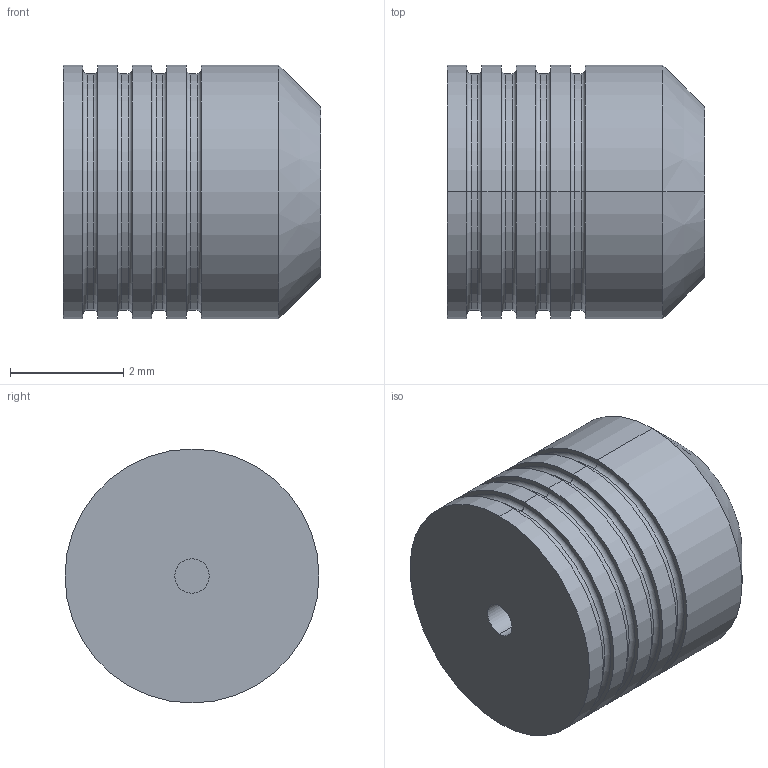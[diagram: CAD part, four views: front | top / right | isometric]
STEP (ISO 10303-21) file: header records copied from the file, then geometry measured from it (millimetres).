
FILE_DESCRIPTION (( 'STEP AP214' ), '1' );
FILE_NAME ('PLGM0450 _ _ 0A.STEP', '2020-02-19T17:54:47', ( 'tlc' ), ( 'Microsoft' ), 'SwSTEP 2.0', 'SolidWorks 2019', '' );
FILE_SCHEMA (( 'AUTOMOTIVE_DESIGN' ));
Length unit declared in the file: inch
Products named in the file (1): PLGM0450 _ _ 0A
Bounding box: 4.55 x 4.49 x 4.49 mm (x, y, z)
Volume: 65.5 mm3; surface area: 107.5 mm2
Topology: 1 solids, 1 shells, 49 faces, 96 edges, 58 vertices
Faces by surface type: cylinder 20, torus 16, plane 11, cone 2
Entity records: 1320 total; most frequent: DIRECTION 270, CARTESIAN_POINT 204, ORIENTED_EDGE 192, AXIS2_PLACEMENT_3D 124, EDGE_CURVE 96, CIRCLE 74, EDGE_LOOP 58, VERTEX_POINT 58
